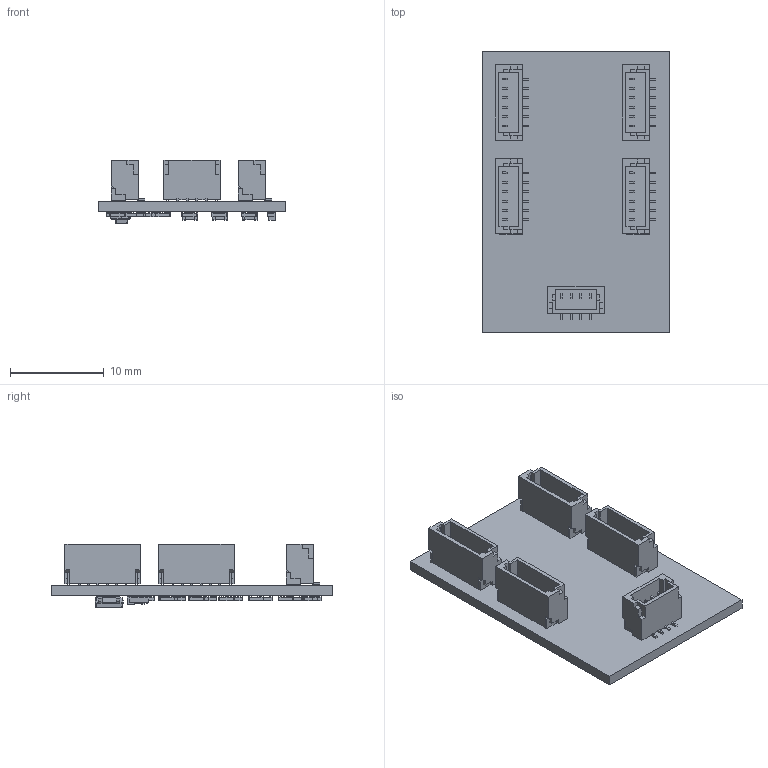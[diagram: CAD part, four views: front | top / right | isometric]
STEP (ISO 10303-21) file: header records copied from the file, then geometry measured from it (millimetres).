
FILE_DESCRIPTION(('KiCad electronic assembly'),'2;1');
FILE_NAME('PoseDoll_RevO4_distal4_rs485_top.step','2026-09-24T05:33:06', ('Pcbnew'),('Kicad'),'Open CASCADE STEP processor 7.9', 'KiCad to STEP converter','Unknown');
FILE_SCHEMA(('AUTOMOTIVE_DESIGN { 1 0 10303 214 1 1 1 1 }'));
Length unit declared in the file: millimetre
Products named in the file (14): PoseDoll_RevO4_distal4_rs485_top 1; JST_SH_BM04B-SRSS-TB_1x04-1MP_P1.00mm_Vertical; JST_SH_BM06B-SRSS-TB_1x06-1MP_P1.00mm_Vertical; R_0603_1608Metric; C_0603_1608Metric; SOT-583-8; SOT-23; PoseDoll_RevO4_distal4_rs485_top_PCB
Assembly tree (63 placements, depth 3):
  PoseDoll_RevO4_distal4_rs485_top 1
    JST_SH_BM04B-SRSS-TB_1x04-1MP_P1.00mm_Vertical
      JST_SH_BM04B-SRSS-TB_1x04-1MP_P1.00mm_Vertical
    JST_SH_BM06B-SRSS-TB_1x06-1MP_P1.00mm_Vertical  x4
      JST_SH_BM06B-SRSS-TB_1x06-1MP_P1.00mm_Vertical
    R_0603_1608Metric  x40
      R_0603_1608Metric
    C_0603_1608Metric  x9
      C_0603_1608Metric
    SOT-583-8
      SOT-583-8
    SOT-23
      SOT-23
    PoseDoll_RevO4_distal4_rs485_top_PCB
Bounding box: 20 x 30 x 6.8 mm (x, y, z)
Volume: 971.6 mm3; surface area: 2591 mm2
Topology: 57 solids, 57 shells, 1998 faces, 5232 edges, 3401 vertices
Faces by surface type: plane 1525, cylinder 441, bspline 32
Full cylindrical faces by diameter (mm): 0.1 x1
Entity records: 16329 total; most frequent: CARTESIAN_POINT 2406, ORIENTED_EDGE 2112, DIRECTION 1957, EDGE_CURVE 1056, LINE 941, VECTOR 941, VERTEX_POINT 677, AXIS2_PLACEMENT_3D 508
